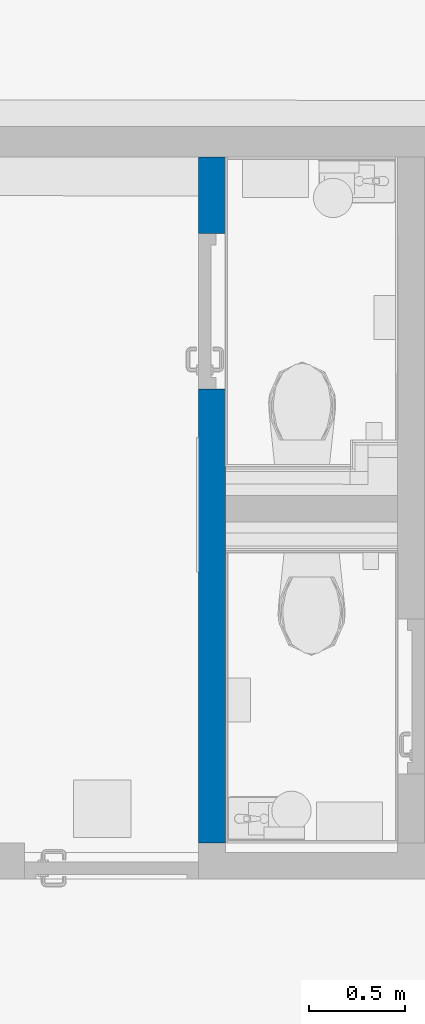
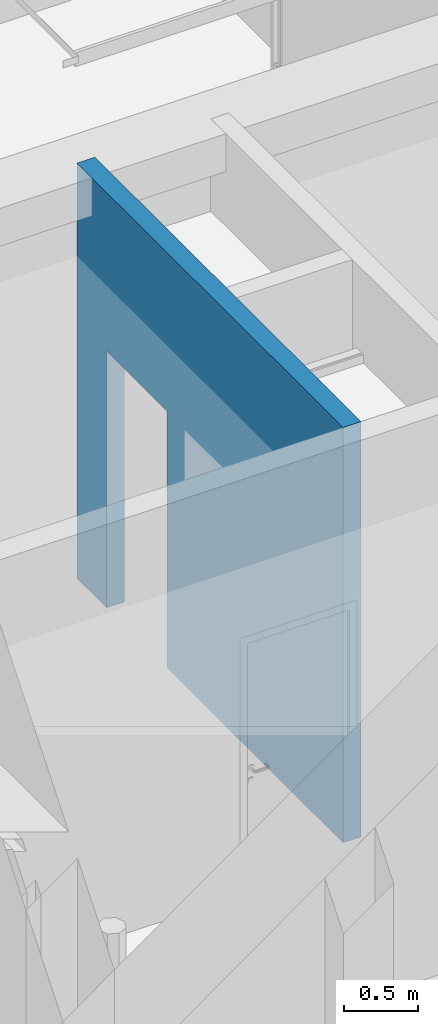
# One storey, part 9 of 301: 1 wall, 1 opening.
"""IFC2X3 building model written with IfcOpenShell, lengths in millimetres."""

from ifc_helpers import new_model, entity, si_unit, converted_unit, derived_unit, money_unit, direction, frame, origin_with_axes, place, context, subcontext, project, spatial, faceted_brep, material, type_object, element, save


model = new_model("IFC2X3")

# Units and contexts
model_context = context("Model", 3, precision=0.01, world=origin_with_axes(), true_north=direction((0.0, 1.0)))
body_context = subcontext(model_context, "Body", "Model", "MODEL_VIEW")
ifc_project = project(units=[si_unit("LENGTHUNIT", "METRE", prefix="MILLI"), si_unit("AREAUNIT", "SQUARE_METRE"), si_unit("VOLUMEUNIT", "CUBIC_METRE"), converted_unit("PLANEANGLEUNIT", "DEGREE", entity("IfcPlaneAngleMeasure", 0.0174532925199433), si_unit("PLANEANGLEUNIT", "RADIAN"), dimensions=[0, 0, 0, 0, 0, 0, 0]), money_unit("EUR"), converted_unit("TIMEUNIT", "Year", entity("IfcTimeMeasure", 31557600.0), si_unit("TIMEUNIT", "SECOND"), dimensions=[0, 0, 1, 0, 0, 0, 0]), si_unit("MASSUNIT", "GRAM", prefix="KILO"), si_unit("THERMODYNAMICTEMPERATUREUNIT", "DEGREE_CELSIUS"), si_unit("LUMINOUSINTENSITYUNIT", "LUMEN"), si_unit("ENERGYUNIT", "JOULE", prefix="MEGA"), derived_unit("THERMALCONDUCTANCEUNIT", [(si_unit("POWERUNIT", "WATT"), 1), (si_unit("LENGTHUNIT", "METRE"), -1), (si_unit("THERMODYNAMICTEMPERATUREUNIT", "KELVIN"), -1)]), derived_unit("SPECIFICHEATCAPACITYUNIT", [(si_unit("ENERGYUNIT", "JOULE"), 1), (si_unit("MASSUNIT", "GRAM", prefix="KILO"), -1), (si_unit("THERMODYNAMICTEMPERATUREUNIT", "KELVIN"), -1)]), derived_unit("MASSDENSITYUNIT", [(si_unit("MASSUNIT", "GRAM", prefix="KILO"), 1), (si_unit("VOLUMEUNIT", "CUBIC_METRE"), -1)])], contexts=[model_context])

# Site, building, storey
site_placement = place(None, frame((0.0, 0.0, 8650.0), z_axis=(0.0, 0.0, 1.0), x_axis=(1.0, 0.0, 0.0)))
site = spatial("IfcSite", under=ifc_project, at=site_placement, Name="43301:001:0844", CompositionType="ELEMENT")
building_placement = place(site_placement, origin_with_axes())
building = spatial("IfcBuilding", under=site, at=building_placement, Name="Kuressaare Ametikooli tuulikute mehaanikute õppekorpus", CompositionType="ELEMENT")
storey_placement = place(building_placement, origin_with_axes())
storey = spatial("IfcBuildingStorey", under=building, at=storey_placement, Name="1.korrus", CompositionType="ELEMENT", Elevation=0.0)

# Wall, opening
ifc_material = material(Name="Betoonõõnesplokk")
wall_type = type_object("IfcWallType", Name="SS-1.2 140", PredefinedType="NOTDEFINED")
wall_placement = place(storey_placement, frame((98987.70666438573, 31954.00949278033, 0.0), z_axis=(0.0, 0.0, 1.0), x_axis=(0.0, -1.0, 0.0)))
wall = element("IfcWall", 1, at=wall_placement, inside=storey, type_object=wall_type, material=ifc_material, Name="Sisesein", context=body_context, shape_type="Brep", body=[
    faceted_brep([(1210.000000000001, 140.0000000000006, 0.0), (1210.000000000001, 140.0000000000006, 2110.0), (399.9999999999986, 140.0000000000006, 2110.0), (399.9999999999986, 140.0000000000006, 0.0), (0.0, 140.0000000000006, 0.0), (0.0, 140.0000000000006, 3410.0), (3580.940569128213, 140.0000000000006, 3410.0), (3580.940569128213, 140.0000000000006, 0.0), (1210.000000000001, 0.0, 0.0), (1210.000000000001, 0.0, 2110.0), (399.9999999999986, 0.0, 2110.0), (399.9999999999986, 0.0, 0.0), (0.0, 0.0, 0.0), (0.0, 0.0, 3410.0), (3580.940569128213, 0.0, 3410.0), (3580.940569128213, 0.0, 0.0)], [[[0, 1, 2, 3, 4, 5, 6, 7]], [[1, 0, 8, 9]], [[2, 1, 9, 10]], [[3, 2, 10, 11]], [[3, 11, 12, 4]], [[13, 5, 4, 12]], [[6, 5, 13, 14]], [[14, 15, 7, 6]], [[8, 0, 7, 15]], [[9, 8, 15, 14, 13, 12, 11, 10]]]),
])
opening_placement = place(wall_placement, frame((804.9999999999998, 0.0, 0.0), z_axis=(0.0, 0.0, 1.0), x_axis=(1.0, 0.0, 0.0)))
element("IfcOpeningElement", 2, at=opening_placement, cuts=wall, Name="NU8", context=body_context, shape_type="Brep", body=[
    faceted_brep([(405.0000000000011, 141.0000000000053, 2110.0), (405.0000000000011, 141.0000000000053, 0.0), (-405.0000000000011, 141.0000000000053, 0.0), (-405.0000000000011, 141.0000000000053, 2110.0), (405.0000000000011, -1.000000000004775, 2110.0), (405.0000000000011, -1.000000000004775, 0.0), (-405.0000000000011, -1.000000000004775, 0.0), (-405.0000000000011, -1.000000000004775, 2110.0)], [[[0, 1, 2, 3]], [[4, 5, 1, 0]], [[5, 6, 2, 1]], [[6, 7, 3, 2]], [[7, 4, 0, 3]], [[6, 5, 4, 7]]]),
])

save(model, "model.ifc")
